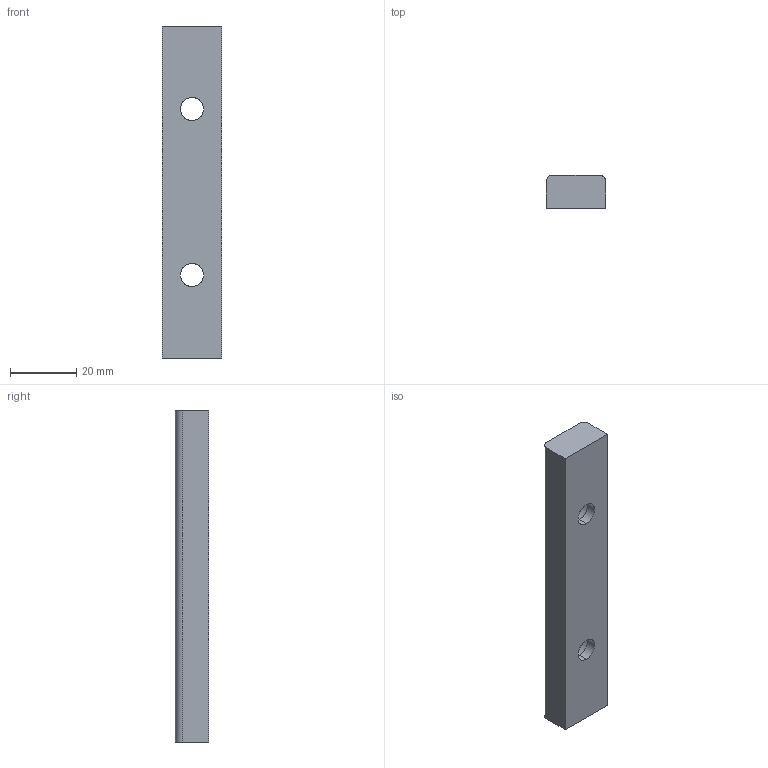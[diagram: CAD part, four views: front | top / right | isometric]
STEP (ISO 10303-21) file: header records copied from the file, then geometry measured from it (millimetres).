
FILE_DESCRIPTION(('CATIA V5 STEP Exchange'),'2;1');
FILE_NAME('C:\Users\Utente\Desktop\3D files A606\A606-018-100.stp','2020-04-13T18:08:22+00:00',('none'),('none'),'CATIA Version 5 Release 20 GA (IN-10)','CATIA V5 STEP AP203','none');
FILE_SCHEMA(('CONFIG_CONTROL_DESIGN'));
Length unit declared in the file: millimetre
Products named in the file (1): Noname
Bounding box: 18 x 10 x 100 mm (x, y, z)
Surface area: 6246.7 mm2 (no closed solid volume)
Topology: 0 solids, 14 shells, 18 faces, 76 edges, 68 vertices
Faces by surface type: cylinder 10, extrusion 8
Entity records: 1044 total; most frequent: CARTESIAN_POINT 415, DIRECTION 84, ORIENTED_EDGE 84, EDGE_CURVE 76, VERTEX_POINT 68, VECTOR 44, LINE 36, AXIS2_PLACEMENT_3D 31
